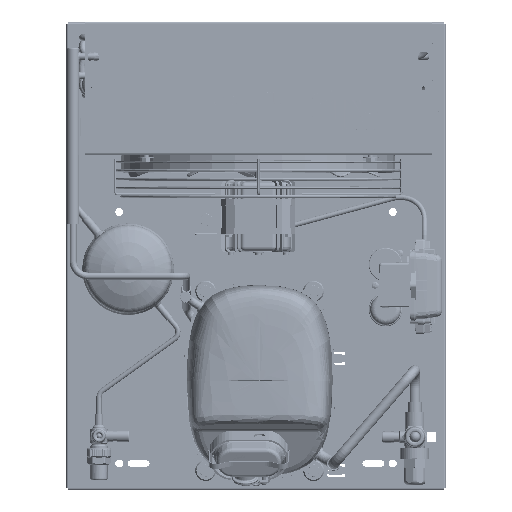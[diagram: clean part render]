
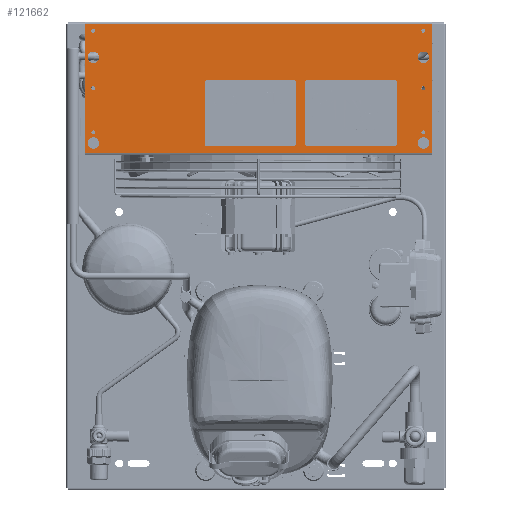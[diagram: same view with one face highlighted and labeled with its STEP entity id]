
A CAD part, top view. The second image highlights one B-rep face of the part: STEP entity #121662.
In plain terms, the highlighted planar face has unit normal (0, 0, 1).
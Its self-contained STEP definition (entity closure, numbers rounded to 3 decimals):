
#5416=CIRCLE('',#170111,6.5);
#5418=CIRCLE('',#170114,6.5);
#5420=CIRCLE('',#170117,6.5);
#5422=CIRCLE('',#170120,6.5);
#5448=CIRCLE('',#170165,2.25);
#5450=CIRCLE('',#170168,2.25);
#5452=CIRCLE('',#170171,2.25);
#5454=CIRCLE('',#170174,2.25);
#5456=CIRCLE('',#170177,2.25);
#5458=CIRCLE('',#170180,2.25);
#12765=ORIENTED_EDGE('',*,*,#45182,.T.);
#12766=ORIENTED_EDGE('',*,*,#45181,.F.);
#12767=ORIENTED_EDGE('',*,*,#45183,.F.);
#12768=ORIENTED_EDGE('',*,*,#45184,.T.);
#12769=ORIENTED_EDGE('',*,*,#45123,.F.);
#12770=ORIENTED_EDGE('',*,*,#45121,.F.);
#12771=ORIENTED_EDGE('',*,*,#45119,.F.);
#12772=ORIENTED_EDGE('',*,*,#45117,.F.);
#12773=ORIENTED_EDGE('',*,*,#45115,.F.);
#12774=ORIENTED_EDGE('',*,*,#45113,.F.);
#12775=ORIENTED_EDGE('',*,*,#45070,.F.);
#12776=ORIENTED_EDGE('',*,*,#45068,.F.);
#12777=ORIENTED_EDGE('',*,*,#45066,.F.);
#12778=ORIENTED_EDGE('',*,*,#45064,.F.);
#45064=EDGE_CURVE('',#62093,#62093,#5416,.T.);
#45066=EDGE_CURVE('',#62095,#62095,#5418,.T.);
#45068=EDGE_CURVE('',#62097,#62097,#5420,.T.);
#45070=EDGE_CURVE('',#62099,#62099,#5422,.T.);
#45113=EDGE_CURVE('',#62135,#62135,#5448,.T.);
#45115=EDGE_CURVE('',#62137,#62137,#5450,.T.);
#45117=EDGE_CURVE('',#62139,#62139,#5452,.T.);
#45119=EDGE_CURVE('',#62141,#62141,#5454,.T.);
#45121=EDGE_CURVE('',#62143,#62143,#5456,.T.);
#45123=EDGE_CURVE('',#62145,#62145,#5458,.T.);
#45181=EDGE_CURVE('',#62187,#62185,#73511,.T.);
#45182=EDGE_CURVE('',#62188,#62185,#73512,.T.);
#45183=EDGE_CURVE('',#62189,#62187,#73513,.T.);
#45184=EDGE_CURVE('',#62189,#62188,#73514,.T.);
#62093=VERTEX_POINT('',#215631);
#62095=VERTEX_POINT('',#215636);
#62097=VERTEX_POINT('',#215641);
#62099=VERTEX_POINT('',#215646);
#62135=VERTEX_POINT('',#215744);
#62137=VERTEX_POINT('',#215749);
#62139=VERTEX_POINT('',#215754);
#62141=VERTEX_POINT('',#215759);
#62143=VERTEX_POINT('',#215764);
#62145=VERTEX_POINT('',#215769);
#62185=VERTEX_POINT('',#215886);
#62187=VERTEX_POINT('',#215890);
#62188=VERTEX_POINT('',#215894);
#62189=VERTEX_POINT('',#215896);
#73511=LINE('',#215891,#84949);
#73512=LINE('',#215893,#84950);
#73513=LINE('',#215895,#84951);
#73514=LINE('',#215897,#84952);
#84949=VECTOR('',#183539,1000.);
#84950=VECTOR('',#183542,1000.);
#84951=VECTOR('',#183543,1000.);
#84952=VECTOR('',#183544,1000.);
#97738=EDGE_LOOP('',(#12765,#12766,#12767,#12768));
#97739=EDGE_LOOP('',(#12769));
#97740=EDGE_LOOP('',(#12770));
#97741=EDGE_LOOP('',(#12771));
#97742=EDGE_LOOP('',(#12772));
#97743=EDGE_LOOP('',(#12773));
#97744=EDGE_LOOP('',(#12774));
#97745=EDGE_LOOP('',(#12775));
#97746=EDGE_LOOP('',(#12776));
#97747=EDGE_LOOP('',(#12777));
#97748=EDGE_LOOP('',(#12778));
#107937=FACE_BOUND('',#97738,.T.);
#107938=FACE_BOUND('',#97739,.T.);
#107939=FACE_BOUND('',#97740,.T.);
#107940=FACE_BOUND('',#97741,.T.);
#107941=FACE_BOUND('',#97742,.T.);
#107942=FACE_BOUND('',#97743,.T.);
#107943=FACE_BOUND('',#97744,.T.);
#107944=FACE_BOUND('',#97745,.T.);
#107945=FACE_BOUND('',#97746,.T.);
#107946=FACE_BOUND('',#97747,.T.);
#107947=FACE_BOUND('',#97748,.T.);
#116449=PLANE('',#170211);
#121662=ADVANCED_FACE('',(#107937,#107938,#107939,#107940,#107941,#107942,
#107943,#107944,#107945,#107946,#107947),#116449,.F.);
#170111=AXIS2_PLACEMENT_3D('',#215630,#183273,#183274);
#170114=AXIS2_PLACEMENT_3D('',#215635,#183279,#183280);
#170117=AXIS2_PLACEMENT_3D('',#215640,#183285,#183286);
#170120=AXIS2_PLACEMENT_3D('',#215645,#183291,#183292);
#170165=AXIS2_PLACEMENT_3D('',#215743,#183398,#183399);
#170168=AXIS2_PLACEMENT_3D('',#215748,#183404,#183405);
#170171=AXIS2_PLACEMENT_3D('',#215753,#183410,#183411);
#170174=AXIS2_PLACEMENT_3D('',#215758,#183416,#183417);
#170177=AXIS2_PLACEMENT_3D('',#215763,#183422,#183423);
#170180=AXIS2_PLACEMENT_3D('',#215768,#183428,#183429);
#170211=AXIS2_PLACEMENT_3D('',#215892,#183540,#183541);
#183273=DIRECTION('',(0.,0.,1.));
#183274=DIRECTION('',(-1.,0.,0.));
#183279=DIRECTION('',(0.,0.,1.));
#183280=DIRECTION('',(-1.,0.,0.));
#183285=DIRECTION('',(0.,0.,1.));
#183286=DIRECTION('',(-1.,0.,0.));
#183291=DIRECTION('',(0.,0.,1.));
#183292=DIRECTION('',(-1.,0.,0.));
#183398=DIRECTION('',(0.,0.,1.));
#183399=DIRECTION('',(-1.,0.,0.));
#183404=DIRECTION('',(0.,0.,1.));
#183405=DIRECTION('',(-1.,0.,0.));
#183410=DIRECTION('',(0.,0.,1.));
#183411=DIRECTION('',(-1.,0.,0.));
#183416=DIRECTION('',(0.,0.,1.));
#183417=DIRECTION('',(-1.,0.,0.));
#183422=DIRECTION('',(0.,0.,1.));
#183423=DIRECTION('',(-1.,0.,0.));
#183428=DIRECTION('',(0.,0.,1.));
#183429=DIRECTION('',(-1.,0.,0.));
#183539=DIRECTION('',(1.,0.,0.));
#183540=DIRECTION('',(0.,0.,-1.));
#183541=DIRECTION('',(-1.,0.,0.));
#183542=DIRECTION('',(0.,1.,0.));
#183543=DIRECTION('',(0.,1.,0.));
#183544=DIRECTION('',(1.,0.,0.));
#215630=CARTESIAN_POINT('',(-187.,-35.1,0.));
#215631=CARTESIAN_POINT('',(-193.5,-35.1,0.));
#215635=CARTESIAN_POINT('',(187.,-35.1,0.));
#215636=CARTESIAN_POINT('',(180.5,-35.1,0.));
#215640=CARTESIAN_POINT('',(187.,62.1,0.));
#215641=CARTESIAN_POINT('',(180.5,62.1,0.));
#215645=CARTESIAN_POINT('',(-187.,62.1,0.));
#215646=CARTESIAN_POINT('',(-193.5,62.1,0.));
#215743=CARTESIAN_POINT('',(-187.,-65.1,0.));
#215744=CARTESIAN_POINT('',(-189.25,-65.1,0.));
#215748=CARTESIAN_POINT('',(187.,-65.1,0.));
#215749=CARTESIAN_POINT('',(184.75,-65.1,0.));
#215753=CARTESIAN_POINT('',(187.,-0.1,0.));
#215754=CARTESIAN_POINT('',(184.75,-0.1,0.));
#215758=CARTESIAN_POINT('',(-187.,-0.1,0.));
#215759=CARTESIAN_POINT('',(-189.25,-0.1,0.));
#215763=CARTESIAN_POINT('',(-187.,49.9,0.));
#215764=CARTESIAN_POINT('',(-189.25,49.9,0.));
#215768=CARTESIAN_POINT('',(187.,49.9,0.));
#215769=CARTESIAN_POINT('',(184.75,49.9,0.));
#215886=CARTESIAN_POINT('',(197.,73.1,0.));
#215890=CARTESIAN_POINT('',(-197.,73.1,0.));
#215891=CARTESIAN_POINT('',(-197.,73.1,0.));
#215892=CARTESIAN_POINT('',(-197.,-75.1,0.));
#215893=CARTESIAN_POINT('',(197.,-75.1,0.));
#215894=CARTESIAN_POINT('',(197.,-73.1,0.));
#215895=CARTESIAN_POINT('',(-197.,-75.1,0.));
#215896=CARTESIAN_POINT('',(-197.,-73.1,0.));
#215897=CARTESIAN_POINT('',(-197.,-73.1,0.));
